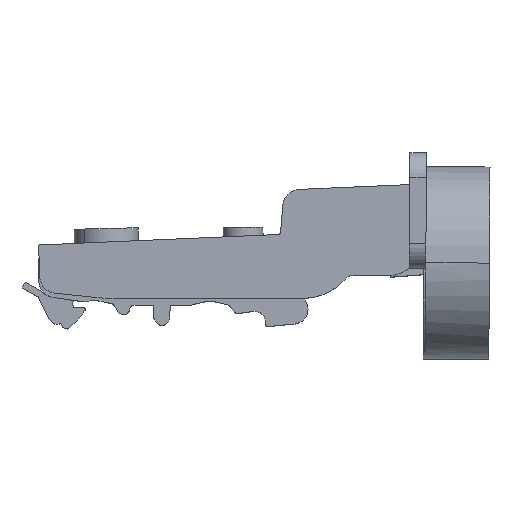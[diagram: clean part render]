
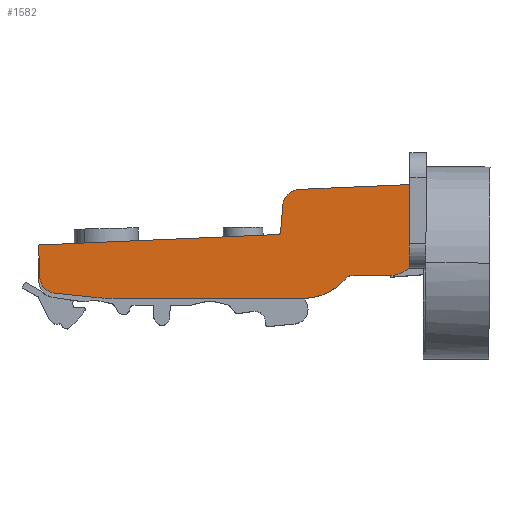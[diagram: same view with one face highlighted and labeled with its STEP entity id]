
A CAD part, top view. The second image highlights one B-rep face of the part: STEP entity #1582.
In plain terms, the highlighted planar face has unit normal (0, 0, 1).
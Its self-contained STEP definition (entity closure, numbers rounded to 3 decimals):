
#12 = LINE ( 'NONE', #1069, #1815 ) ;
#26 = AXIS2_PLACEMENT_3D ( 'NONE', #1373, #358, #4444 ) ;
#103 = ORIENTED_EDGE ( 'NONE', *, *, #2520, .F. ) ;
#114 = CARTESIAN_POINT ( 'NONE',  ( -73.899, 0.39, 8.5 ) ) ;
#119 = LINE ( 'NONE', #767, #3482 ) ;
#130 = DIRECTION ( 'NONE',  ( 1., 0., 0. ) ) ;
#134 = DIRECTION ( 'NONE',  ( 0., 0., 1. ) ) ;
#136 = VERTEX_POINT ( 'NONE', #1208 ) ;
#245 = AXIS2_PLACEMENT_3D ( 'NONE', #2673, #4040, #1880 ) ;
#292 = CARTESIAN_POINT ( 'NONE',  ( -60.4, -9.317, 8.5 ) ) ;
#317 = CARTESIAN_POINT ( 'NONE',  ( -73.633, -5.709, 8.5 ) ) ;
#352 = DIRECTION ( 'NONE',  ( -1., 0., 0. ) ) ;
#358 = DIRECTION ( 'NONE',  ( 0., 0., -1. ) ) ;
#431 = ORIENTED_EDGE ( 'NONE', *, *, #1394, .T. ) ;
#463 = VECTOR ( 'NONE', #2887, 1000. ) ;
#514 = CARTESIAN_POINT ( 'NONE',  ( -63.535, -9.153, 8.5 ) ) ;
#542 = DIRECTION ( 'NONE',  ( -0.006, -1., 0. ) ) ;
#555 = CARTESIAN_POINT ( 'NONE',  ( -70.65, -5.389, 8.5 ) ) ;
#574 = DIRECTION ( 'NONE',  ( 1., 0., 0. ) ) ;
#575 = CARTESIAN_POINT ( 'NONE',  ( -63.535, -9.153, 8.5 ) ) ;
#578 = DIRECTION ( 'NONE',  ( 1., 0., 0. ) ) ;
#589 = CIRCLE ( 'NONE', #3838, 4.5 ) ;
#593 = PLANE ( 'NONE',  #3406 ) ;
#611 = VECTOR ( 'NONE', #4225, 1000. ) ;
#629 = CARTESIAN_POINT ( 'NONE',  ( -70.964, -8.372, 8.5 ) ) ;
#714 = VERTEX_POINT ( 'NONE', #3657 ) ;
#739 = DIRECTION ( 'NONE',  ( -0.044, 0.999, 0. ) ) ;
#742 = ORIENTED_EDGE ( 'NONE', *, *, #3300, .F. ) ;
#764 = CARTESIAN_POINT ( 'NONE',  ( -73.897, 0.333, 8.5 ) ) ;
#767 = CARTESIAN_POINT ( 'NONE',  ( -18.185, -5.143, 8.5 ) ) ;
#864 = VERTEX_POINT ( 'NONE', #292 ) ;
#888 = VECTOR ( 'NONE', #739, 1000. ) ;
#912 = FACE_OUTER_BOUND ( 'NONE', #2063, .T. ) ;
#945 = CARTESIAN_POINT ( 'NONE',  ( -10.159, -0.643, 8.5 ) ) ;
#1018 = EDGE_CURVE ( 'NONE', #1133, #1680, #119, .T. ) ;
#1051 = EDGE_CURVE ( 'NONE', #864, #2634, #1316, .T. ) ;
#1069 = CARTESIAN_POINT ( 'NONE',  ( -34.416, 2.057, 8.5 ) ) ;
#1086 = CARTESIAN_POINT ( 'NONE',  ( -29.688, 7.653, 8.5 ) ) ;
#1097 = LINE ( 'NONE', #114, #888 ) ;
#1110 = ORIENTED_EDGE ( 'NONE', *, *, #4171, .T. ) ;
#1133 = VERTEX_POINT ( 'NONE', #3948 ) ;
#1173 = CARTESIAN_POINT ( 'NONE',  ( -26.83, 10.388, 8.5 ) ) ;
#1208 = CARTESIAN_POINT ( 'NONE',  ( -26.008, -9.317, 8.5 ) ) ;
#1280 = ORIENTED_EDGE ( 'NONE', *, *, #3819, .T. ) ;
#1314 = VERTEX_POINT ( 'NONE', #1566 ) ;
#1316 = CIRCLE ( 'NONE', #1890, 30. ) ;
#1318 = CARTESIAN_POINT ( 'NONE',  ( -30.6, 2.224, 8.5 ) ) ;
#1373 = CARTESIAN_POINT ( 'NONE',  ( -26.008, 0.683, 8.5 ) ) ;
#1394 = EDGE_CURVE ( 'NONE', #3503, #1493, #3187, .T. ) ;
#1410 = CARTESIAN_POINT ( 'NONE',  ( -16.911, -5.143, 8.5 ) ) ;
#1445 = VERTEX_POINT ( 'NONE', #3579 ) ;
#1470 = LINE ( 'NONE', #514, #463 ) ;
#1472 = CIRCLE ( 'NONE', #245, 3. ) ;
#1489 = CARTESIAN_POINT ( 'NONE',  ( -60.4, 20.683, 8.5 ) ) ;
#1493 = VERTEX_POINT ( 'NONE', #1318 ) ;
#1518 = DIRECTION ( 'NONE',  ( 0., 0., -1. ) ) ;
#1566 = CARTESIAN_POINT ( 'NONE',  ( -6.769, 11.264, 8.5 ) ) ;
#1582 = ADVANCED_FACE ( 'NONE', ( #912 ), #593, .T. ) ;
#1634 = EDGE_CURVE ( 'NONE', #1493, #2570, #12, .T. ) ;
#1646 = VERTEX_POINT ( 'NONE', #3132 ) ;
#1660 = EDGE_CURVE ( 'NONE', #136, #864, #2770, .T. ) ;
#1680 = VERTEX_POINT ( 'NONE', #1410 ) ;
#1778 = DIRECTION ( 'NONE',  ( 1., 0., 0. ) ) ;
#1815 = VECTOR ( 'NONE', #3848, 1000. ) ;
#1853 = ORIENTED_EDGE ( 'NONE', *, *, #3694, .F. ) ;
#1880 = DIRECTION ( 'NONE',  ( 1., 0., 0. ) ) ;
#1890 = AXIS2_PLACEMENT_3D ( 'NONE', #1489, #3652, #578 ) ;
#1968 = ORIENTED_EDGE ( 'NONE', *, *, #1051, .F. ) ;
#1973 = DIRECTION ( 'NONE',  ( 1., 0., 0. ) ) ;
#1992 = EDGE_CURVE ( 'NONE', #714, #1133, #589, .T. ) ;
#2017 = DIRECTION ( 'NONE',  ( 0., 0., -1. ) ) ;
#2063 = EDGE_LOOP ( 'NONE', ( #2465, #1280, #3841, #1110, #431, #3471, #103, #1853, #742, #1968, #3934, #2779, #2663, #2783, #3478 ) ) ;
#2290 = CARTESIAN_POINT ( 'NONE',  ( 1.3, 0.311, 8.5 ) ) ;
#2339 = AXIS2_PLACEMENT_3D ( 'NONE', #555, #2017, #574 ) ;
#2385 = EDGE_CURVE ( 'NONE', #1445, #136, #3842, .T. ) ;
#2395 = AXIS2_PLACEMENT_3D ( 'NONE', #4272, #1518, #130 ) ;
#2459 = DIRECTION ( 'NONE',  ( -1., 0., 0. ) ) ;
#2465 = ORIENTED_EDGE ( 'NONE', *, *, #4364, .F. ) ;
#2520 = EDGE_CURVE ( 'NONE', #3593, #2570, #1097, .T. ) ;
#2570 = VERTEX_POINT ( 'NONE', #764 ) ;
#2574 = EDGE_CURVE ( 'NONE', #1680, #1445, #4340, .T. ) ;
#2634 = VERTEX_POINT ( 'NONE', #575 ) ;
#2663 = ORIENTED_EDGE ( 'NONE', *, *, #2574, .F. ) ;
#2673 = CARTESIAN_POINT ( 'NONE',  ( -26.7, 7.391, 8.5 ) ) ;
#2693 = AXIS2_PLACEMENT_3D ( 'NONE', #3203, #134, #1778 ) ;
#2770 = LINE ( 'NONE', #3807, #4046 ) ;
#2779 = ORIENTED_EDGE ( 'NONE', *, *, #2385, .F. ) ;
#2783 = ORIENTED_EDGE ( 'NONE', *, *, #1018, .F. ) ;
#2887 = DIRECTION ( 'NONE',  ( -0.995, 0.105, 0. ) ) ;
#3121 = EDGE_CURVE ( 'NONE', #3386, #1646, #1472, .T. ) ;
#3132 = CARTESIAN_POINT ( 'NONE',  ( -29.688, 7.653, 8.5 ) ) ;
#3172 = LINE ( 'NONE', #1086, #611 ) ;
#3187 = CIRCLE ( 'NONE', #2395, 0.5 ) ;
#3203 = CARTESIAN_POINT ( 'NONE',  ( -16.911, -7.143, 8.5 ) ) ;
#3300 = EDGE_CURVE ( 'NONE', #2634, #4458, #1470, .T. ) ;
#3386 = VERTEX_POINT ( 'NONE', #1173 ) ;
#3406 = AXIS2_PLACEMENT_3D ( 'NONE', #2290, #3664, #1973 ) ;
#3471 = ORIENTED_EDGE ( 'NONE', *, *, #1634, .T. ) ;
#3478 = ORIENTED_EDGE ( 'NONE', *, *, #1992, .F. ) ;
#3482 = VECTOR ( 'NONE', #2459, 1000. ) ;
#3503 = VERTEX_POINT ( 'NONE', #3655 ) ;
#3570 = VECTOR ( 'NONE', #3600, 1000. ) ;
#3579 = CARTESIAN_POINT ( 'NONE',  ( -18.427, -5.839, 8.5 ) ) ;
#3593 = VERTEX_POINT ( 'NONE', #317 ) ;
#3600 = DIRECTION ( 'NONE',  ( -0.999, -0.044, 0. ) ) ;
#3635 = CIRCLE ( 'NONE', #2339, 3. ) ;
#3643 = VECTOR ( 'NONE', #542, 1000. ) ;
#3652 = DIRECTION ( 'NONE',  ( 0., 0., -1. ) ) ;
#3655 = CARTESIAN_POINT ( 'NONE',  ( -30.123, 2.68, 8.5 ) ) ;
#3657 = CARTESIAN_POINT ( 'NONE',  ( -6.861, -3.706, 8.5 ) ) ;
#3659 = DIRECTION ( 'NONE',  ( 0., 0., -1. ) ) ;
#3664 = DIRECTION ( 'NONE',  ( 0., 0., 1. ) ) ;
#3665 = LINE ( 'NONE', #4337, #3570 ) ;
#3670 = CARTESIAN_POINT ( 'NONE',  ( -6.836, 0.362, 8.5 ) ) ;
#3694 = EDGE_CURVE ( 'NONE', #4458, #3593, #3635, .T. ) ;
#3807 = CARTESIAN_POINT ( 'NONE',  ( -26.008, -9.317, 8.5 ) ) ;
#3819 = EDGE_CURVE ( 'NONE', #1314, #3386, #3665, .T. ) ;
#3838 = AXIS2_PLACEMENT_3D ( 'NONE', #945, #3659, #3974 ) ;
#3841 = ORIENTED_EDGE ( 'NONE', *, *, #3121, .T. ) ;
#3842 = CIRCLE ( 'NONE', #26, 10. ) ;
#3848 = DIRECTION ( 'NONE',  ( -0.999, -0.044, 0. ) ) ;
#3934 = ORIENTED_EDGE ( 'NONE', *, *, #1660, .F. ) ;
#3948 = CARTESIAN_POINT ( 'NONE',  ( -10.159, -5.143, 8.5 ) ) ;
#3974 = DIRECTION ( 'NONE',  ( 1., 0., 0. ) ) ;
#4040 = DIRECTION ( 'NONE',  ( 0., 0., 1. ) ) ;
#4046 = VECTOR ( 'NONE', #352, 1000. ) ;
#4171 = EDGE_CURVE ( 'NONE', #1646, #3503, #3172, .T. ) ;
#4225 = DIRECTION ( 'NONE',  ( -0.087, -0.996, 0. ) ) ;
#4272 = CARTESIAN_POINT ( 'NONE',  ( -30.621, 2.723, 8.5 ) ) ;
#4302 = LINE ( 'NONE', #3670, #3643 ) ;
#4337 = CARTESIAN_POINT ( 'NONE',  ( -12.344, 11.021, 8.5 ) ) ;
#4340 = CIRCLE ( 'NONE', #2693, 2. ) ;
#4364 = EDGE_CURVE ( 'NONE', #1314, #714, #4302, .T. ) ;
#4444 = DIRECTION ( 'NONE',  ( 1., 0., 0. ) ) ;
#4458 = VERTEX_POINT ( 'NONE', #629 ) ;
